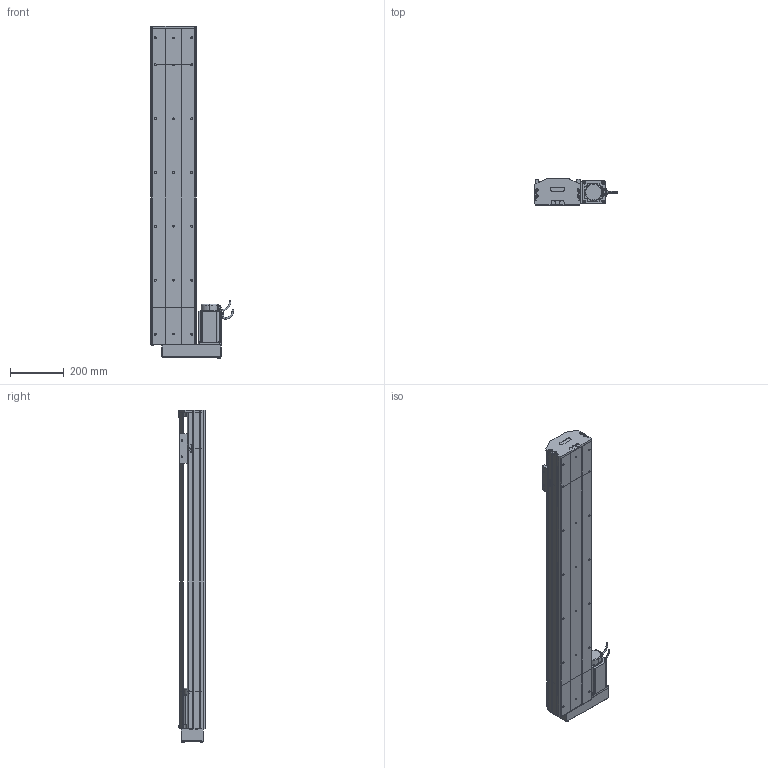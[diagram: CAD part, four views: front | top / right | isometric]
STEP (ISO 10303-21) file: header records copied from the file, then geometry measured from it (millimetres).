
FILE_DESCRIPTION (( 'STEP AP214' ), '1' );
FILE_NAME ('D17 TSN BL S900.STEP', '2010-06-30T07:44:25', ( 'Christophe Gaillard' ), ( 'SGA' ), 'SwSTEP 2.0', 'SolidWorks 2010', '' );
FILE_SCHEMA (( 'AUTOMOTIVE_DESIGN' ));
Length unit declared in the file: millimetre
Products named in the file (33): guide D17; Chariot D17 TBN; renvoi BL_Default; Vis M5 L16-2_Default; Conecteur_Default; chariot D17 TSN; Cvis M5 L70_Default; vis M5 L12_Default; Conecteur2_Default; codeur 90BLDC125-640; vis M5 L5_Default; Arbre+rail head D17; corps 90BLDC125A-640; Moteur motionking 90BLDC125A-640; avant 90BLDC125A-640; arbre + rail D17 Course 900 ; course 900 D17_Default; D17 TSN BL S900; Tail D17+L100_Default; couvercle D17 course L900_Default; corp D17 900_Default; tete d''axe bas D17; plaque de  bout tail D17_Default; corpl tail D17+L100_Default; couvercle D17_Default; Arbre+rail tail D17; tete d''axe haut D17; head BL_Default; vis M5 L25_Default; vis M5 L8 90°_Default; plaque de  bout BM head D17_Default; couvercle D17 head_Default; corpl head D17 BM_Default
Assembly tree (51 placements, depth 4):
  D17 TSN BL S900
    chariot D17 TSN
      Chariot D17 TBN
      guide D17  x2
    Tail D17+L100_Default
      vis M5 L12_Default  x4
      vis M5 L25_Default  x2
      Arbre+rail tail D17
      plaque de  bout tail D17_Default
      vis M5 L8 90°_Default  x2
      corpl tail D17+L100_Default
      tete d''axe haut D17
      couvercle D17_Default
      tete d''axe bas D17
    head BL_Default
      Vis M5 L16-2_Default  x4
      Moteur motionking 90BLDC125A-640
        avant 90BLDC125A-640
        codeur 90BLDC125-640
        corps 90BLDC125A-640
        Conecteur_Default
        Conecteur2_Default
      vis M5 L12_Default  x8
      corpl head D17 BM_Default
      renvoi BL_Default
      plaque de  bout BM head D17_Default
      Arbre+rail head D17
      Cvis M5 L70_Default  x2
      vis M5 L5_Default  x2
      couvercle D17 head_Default
    course 900 D17_Default
      arbre + rail D17 Course 900 
      couvercle D17 course L900_Default
      corp D17 900_Default
Bounding box: 308.95 x 99.7 x 1232.7 mm (x, y, z)
Volume: 8100299.8 mm3; surface area: 2064100.9 mm2
Topology: 75 solids, 75 shells, 2143 faces, 5448 edges, 3522 vertices
Faces by surface type: plane 1326, cylinder 556, bspline 136, torus 65, cone 56, sphere 4
Entity records: 71941 total; most frequent: CARTESIAN_POINT 22697, ORIENTED_EDGE 8804, DIRECTION 8203, EDGE_CURVE 4402, VECTOR 3055, LINE 3055, VERTEX_POINT 2888, AXIS2_PLACEMENT_3D 2574
